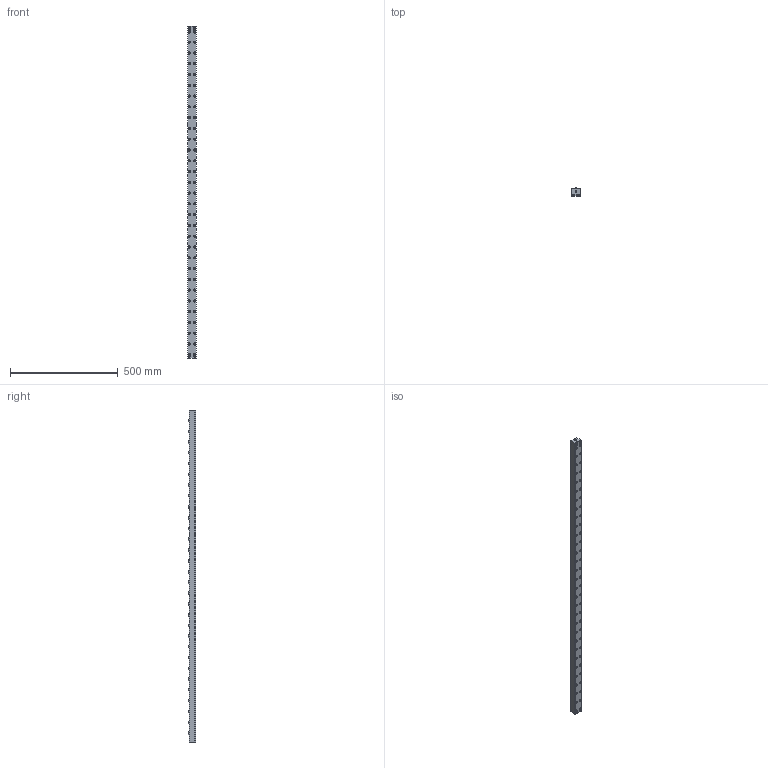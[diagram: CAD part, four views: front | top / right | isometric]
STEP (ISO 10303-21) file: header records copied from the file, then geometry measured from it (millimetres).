
FILE_DESCRIPTION (( 'STEP AP203' ), '1' );
FILE_NAME ('PVL30SL-30-P50.STEP', '2016-02-18T09:21:37', ( '' ), ( '' ), 'SwSTEP 2.0', 'SolidWorks 2013', '' );
FILE_SCHEMA (( 'CONFIG_CONTROL_DESIGN' ));
Length unit declared in the file: millimetre
Products named in the file (1): PVL30SL-30-P50
Bounding box: 38 x 36 x 1540 mm (x, y, z)
Volume: 1823392.9 mm3; surface area: 496865.7 mm2
Topology: 9 solids, 9 shells, 1169 faces, 2644 edges, 1761 vertices
Faces by surface type: plane 659, cylinder 410, sphere 60, cone 40
Entity records: 33037 total; most frequent: DIRECTION 5962, CARTESIAN_POINT 5561, ORIENTED_EDGE 5260, EDGE_CURVE 2630, AXIS2_PLACEMENT_3D 2162, VERTEX_POINT 1761, VECTOR 1638, LINE 1638
